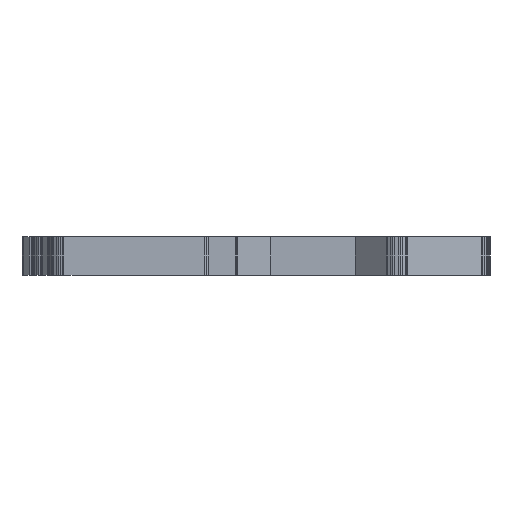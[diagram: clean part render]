
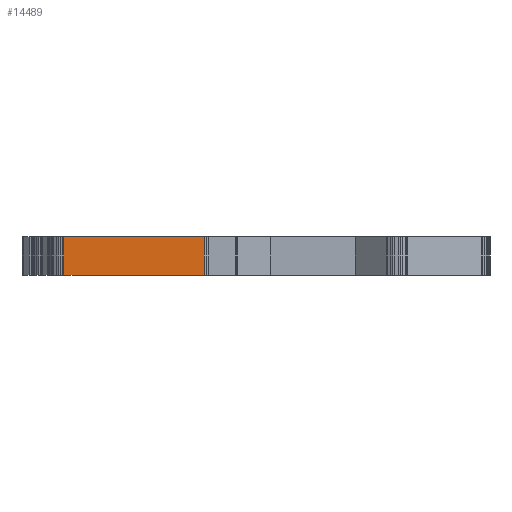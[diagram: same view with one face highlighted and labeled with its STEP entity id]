
A CAD part, left-side view. The second image highlights one B-rep face of the part: STEP entity #14489.
In plain terms, the highlighted planar face has unit normal (-1, 0, 0).
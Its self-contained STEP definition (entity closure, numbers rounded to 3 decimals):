
#72 = PLANE('',#73);
#73 = AXIS2_PLACEMENT_3D('',#74,#75,#76);
#74 = CARTESIAN_POINT('',(245.936,-53.209,3.5));
#75 = DIRECTION('',(0.,0.,1.));
#76 = DIRECTION('',(1.,0.,-0.));
#126 = PLANE('',#127);
#127 = AXIS2_PLACEMENT_3D('',#128,#129,#130);
#128 = CARTESIAN_POINT('',(245.936,-53.209,-6.6));
#129 = DIRECTION('',(0.,0.,1.));
#130 = DIRECTION('',(1.,0.,-0.));
#4239 = VERTEX_POINT('',#4240);
#4240 = CARTESIAN_POINT('',(176.62,-4.864,-6.6));
#4254 = PLANE('',#4255);
#4255 = AXIS2_PLACEMENT_3D('',#4256,#4257,#4258);
#4256 = CARTESIAN_POINT('',(176.672,-4.602,-6.6));
#4257 = DIRECTION('',(0.981,-0.195,0.));
#4258 = DIRECTION('',(-0.195,-0.981,0.));
#4266 = EDGE_CURVE('',#4239,#4267,#4269,.T.);
#4267 = VERTEX_POINT('',#4268);
#4268 = CARTESIAN_POINT('',(176.62,-42.047,-6.6));
#4269 = SURFACE_CURVE('',#4270,(#4274,#4281),.PCURVE_S1.);
#4270 = LINE('',#4271,#4272);
#4271 = CARTESIAN_POINT('',(176.62,-4.864,-6.6));
#4272 = VECTOR('',#4273,1.);
#4273 = DIRECTION('',(0.,-1.,0.));
#4274 = PCURVE('',#126,#4275);
#4275 = DEFINITIONAL_REPRESENTATION('',(#4276),#4280);
#4276 = LINE('',#4277,#4278);
#4277 = CARTESIAN_POINT('',(-69.316,48.345));
#4278 = VECTOR('',#4279,1.);
#4279 = DIRECTION('',(0.,-1.));
#4280 = ( GEOMETRIC_REPRESENTATION_CONTEXT(2) 
PARAMETRIC_REPRESENTATION_CONTEXT() REPRESENTATION_CONTEXT('2D SPACE',''
  ) );
#4281 = PCURVE('',#4282,#4287);
#4282 = PLANE('',#4283);
#4283 = AXIS2_PLACEMENT_3D('',#4284,#4285,#4286);
#4284 = CARTESIAN_POINT('',(176.62,-4.864,-6.6));
#4285 = DIRECTION('',(1.,0.,-0.));
#4286 = DIRECTION('',(0.,-1.,0.));
#4287 = DEFINITIONAL_REPRESENTATION('',(#4288),#4292);
#4288 = LINE('',#4289,#4290);
#4289 = CARTESIAN_POINT('',(0.,0.));
#4290 = VECTOR('',#4291,1.);
#4291 = DIRECTION('',(1.,0.));
#4292 = ( GEOMETRIC_REPRESENTATION_CONTEXT(2) 
PARAMETRIC_REPRESENTATION_CONTEXT() REPRESENTATION_CONTEXT('2D SPACE',''
  ) );
#4310 = PLANE('',#4311);
#4311 = AXIS2_PLACEMENT_3D('',#4312,#4313,#4314);
#4312 = CARTESIAN_POINT('',(176.62,-42.047,-6.6));
#4313 = DIRECTION('',(0.925,0.381,-0.));
#4314 = DIRECTION('',(0.381,-0.925,0.));
#8081 = VERTEX_POINT('',#8082);
#8082 = CARTESIAN_POINT('',(176.62,-4.864,3.5));
#8103 = EDGE_CURVE('',#8081,#8104,#8106,.T.);
#8104 = VERTEX_POINT('',#8105);
#8105 = CARTESIAN_POINT('',(176.62,-42.047,3.5));
#8106 = SURFACE_CURVE('',#8107,(#8111,#8118),.PCURVE_S1.);
#8107 = LINE('',#8108,#8109);
#8108 = CARTESIAN_POINT('',(176.62,-4.864,3.5));
#8109 = VECTOR('',#8110,1.);
#8110 = DIRECTION('',(0.,-1.,0.));
#8111 = PCURVE('',#72,#8112);
#8112 = DEFINITIONAL_REPRESENTATION('',(#8113),#8117);
#8113 = LINE('',#8114,#8115);
#8114 = CARTESIAN_POINT('',(-69.316,48.345));
#8115 = VECTOR('',#8116,1.);
#8116 = DIRECTION('',(0.,-1.));
#8117 = ( GEOMETRIC_REPRESENTATION_CONTEXT(2) 
PARAMETRIC_REPRESENTATION_CONTEXT() REPRESENTATION_CONTEXT('2D SPACE',''
  ) );
#8118 = PCURVE('',#4282,#8119);
#8119 = DEFINITIONAL_REPRESENTATION('',(#8120),#8124);
#8120 = LINE('',#8121,#8122);
#8121 = CARTESIAN_POINT('',(0.,-10.1));
#8122 = VECTOR('',#8123,1.);
#8123 = DIRECTION('',(1.,0.));
#8124 = ( GEOMETRIC_REPRESENTATION_CONTEXT(2) 
PARAMETRIC_REPRESENTATION_CONTEXT() REPRESENTATION_CONTEXT('2D SPACE',''
  ) );
#14439 = EDGE_CURVE('',#4267,#8104,#14440,.T.);
#14440 = SURFACE_CURVE('',#14441,(#14445,#14452),.PCURVE_S1.);
#14441 = LINE('',#14442,#14443);
#14442 = CARTESIAN_POINT('',(176.62,-42.047,-6.6));
#14443 = VECTOR('',#14444,1.);
#14444 = DIRECTION('',(0.,0.,1.));
#14445 = PCURVE('',#4310,#14446);
#14446 = DEFINITIONAL_REPRESENTATION('',(#14447),#14451);
#14447 = LINE('',#14448,#14449);
#14448 = CARTESIAN_POINT('',(0.,0.));
#14449 = VECTOR('',#14450,1.);
#14450 = DIRECTION('',(0.,-1.));
#14451 = ( GEOMETRIC_REPRESENTATION_CONTEXT(2) 
PARAMETRIC_REPRESENTATION_CONTEXT() REPRESENTATION_CONTEXT('2D SPACE',''
  ) );
#14452 = PCURVE('',#4282,#14453);
#14453 = DEFINITIONAL_REPRESENTATION('',(#14454),#14458);
#14454 = LINE('',#14455,#14456);
#14455 = CARTESIAN_POINT('',(37.183,0.));
#14456 = VECTOR('',#14457,1.);
#14457 = DIRECTION('',(0.,-1.));
#14458 = ( GEOMETRIC_REPRESENTATION_CONTEXT(2) 
PARAMETRIC_REPRESENTATION_CONTEXT() REPRESENTATION_CONTEXT('2D SPACE',''
  ) );
#14489 = ADVANCED_FACE('',(#14490),#4282,.F.);
#14490 = FACE_BOUND('',#14491,.F.);
#14491 = EDGE_LOOP('',(#14492,#14513,#14514,#14515));
#14492 = ORIENTED_EDGE('',*,*,#14493,.T.);
#14493 = EDGE_CURVE('',#4239,#8081,#14494,.T.);
#14494 = SURFACE_CURVE('',#14495,(#14499,#14506),.PCURVE_S1.);
#14495 = LINE('',#14496,#14497);
#14496 = CARTESIAN_POINT('',(176.62,-4.864,-6.6));
#14497 = VECTOR('',#14498,1.);
#14498 = DIRECTION('',(0.,0.,1.));
#14499 = PCURVE('',#4282,#14500);
#14500 = DEFINITIONAL_REPRESENTATION('',(#14501),#14505);
#14501 = LINE('',#14502,#14503);
#14502 = CARTESIAN_POINT('',(0.,0.));
#14503 = VECTOR('',#14504,1.);
#14504 = DIRECTION('',(0.,-1.));
#14505 = ( GEOMETRIC_REPRESENTATION_CONTEXT(2) 
PARAMETRIC_REPRESENTATION_CONTEXT() REPRESENTATION_CONTEXT('2D SPACE',''
  ) );
#14506 = PCURVE('',#4254,#14507);
#14507 = DEFINITIONAL_REPRESENTATION('',(#14508),#14512);
#14508 = LINE('',#14509,#14510);
#14509 = CARTESIAN_POINT('',(0.267,0.));
#14510 = VECTOR('',#14511,1.);
#14511 = DIRECTION('',(0.,-1.));
#14512 = ( GEOMETRIC_REPRESENTATION_CONTEXT(2) 
PARAMETRIC_REPRESENTATION_CONTEXT() REPRESENTATION_CONTEXT('2D SPACE',''
  ) );
#14513 = ORIENTED_EDGE('',*,*,#8103,.T.);
#14514 = ORIENTED_EDGE('',*,*,#14439,.F.);
#14515 = ORIENTED_EDGE('',*,*,#4266,.F.);
